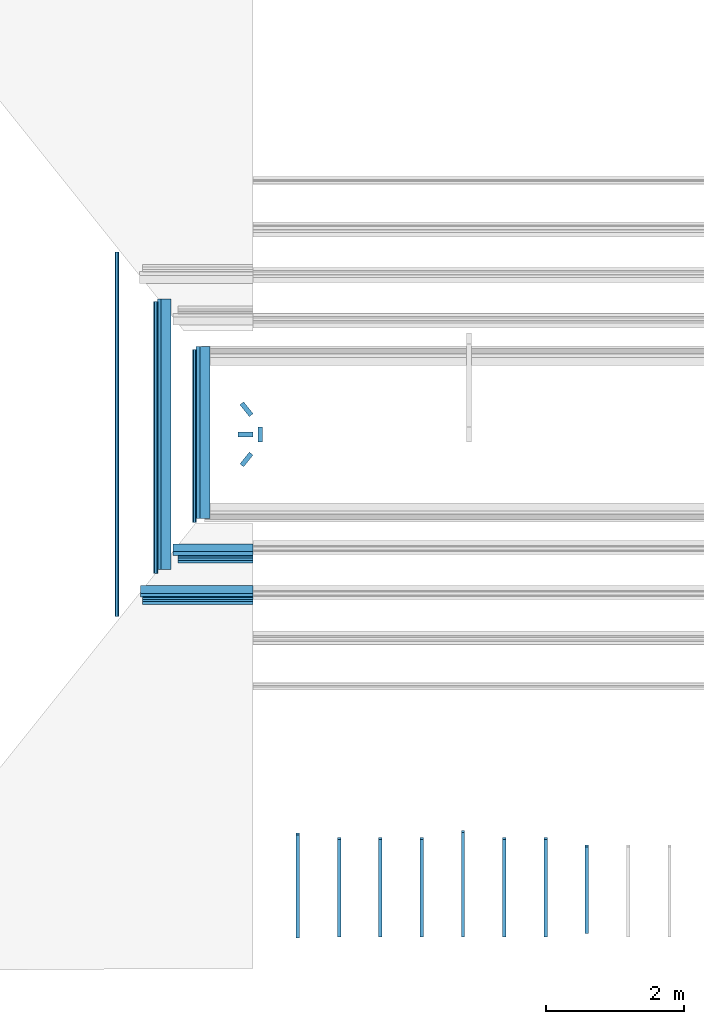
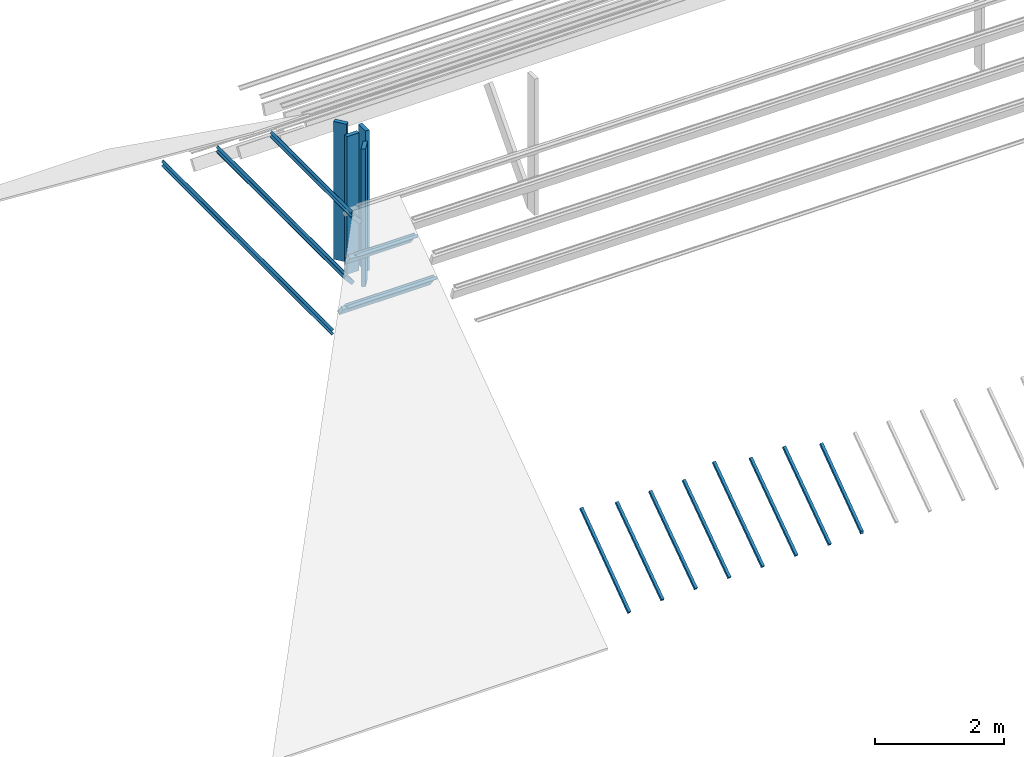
# One storey, part 1 of 6: 21 beams.
"""IFC2X3 building model written with IfcOpenShell, lengths in centimetres."""

from ifc_helpers import new_model, entity, si_unit, converted_unit, direction, frame, frame_2d, origin, place, context, subcontext, project, spatial, polyline, circle_curve, parameter, trimmed, segment, composite_curve, rectangle, outline, extrude, clip, halfspace, material, type_object, element, save


model = new_model("IFC2X3")

# Units and contexts
model_context = context("Model", 3, precision=0.001, world=frame((0.0, 0.0, 13090.0)), true_north=direction((6.123233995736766e-17, 1.0)))
body_context = subcontext(model_context, "Body", "Model", "MODEL_VIEW")
ifc_project = project(units=[si_unit("LENGTHUNIT", "METRE", prefix="CENTI"), si_unit("AREAUNIT", "SQUARE_METRE"), si_unit("VOLUMEUNIT", "CUBIC_METRE"), converted_unit("PLANEANGLEUNIT", "DEGREE", entity("IfcPlaneAngleMeasure", 0.017453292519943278), si_unit("PLANEANGLEUNIT", "RADIAN"), dimensions=[0, 0, 0, 0, 0, 0, 0])], contexts=[model_context])

# Site, building, storey
site_placement = place(None, origin())
site = spatial("IfcSite", under=ifc_project, at=site_placement, Name="Default", CompositionType="ELEMENT")
building_placement = place(site_placement, origin())
building = spatial("IfcBuilding", under=site, at=building_placement, Name="e 39 logements et 22 maisons relais", CompositionType="ELEMENT")
storey_placement = place(building_placement, frame((0.0, 0.0, 810.0)))
storey = spatial("IfcBuildingStorey", under=building, at=storey_placement, Name="R+3", CompositionType="ELEMENT", Elevation=810.0000000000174)

# Beams
ifc_material_1 = material(Name="Bois - Bois de construction de dimensions courantes")
beam_type_1 = type_object("IfcBeamType", Name="Poutre - Bois de construction de dimensions courantes:70 220", PredefinedType="BEAM")
beam_1_placement = place(storey_placement, frame((-912.5294746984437, -11.897903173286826, 193.24651256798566), z_axis=(1.0, 0.0, 0.0), x_axis=(0.0, 0.0, -1.0)))
element("IfcBeam", 1, at=beam_1_placement, inside=storey, type_object=beam_type_1, material=ifc_material_1, Name="Poutre - Bois de construction de dimensions courantes:70 220", ObjectType="Poutre - Bois de construction de dimensions courantes:70 220", context=body_context, shape_type="SweptSolid", body=[
    extrude(rectangle(XDim=7.000000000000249, YDim=21.999999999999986, at=frame_2d((5.417888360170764e-14, 5.329070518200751e-15), x_axis=(1.0, 0.0))), frame((150.63012889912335, -11.0, 0.0), z_axis=(1.0, 0.0, 0.0), x_axis=(0.0, 0.0, -1.0)), (0.0, 0.0, 1.0), 266.29065862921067),
])
beam_2_placement = place(storey_placement, frame((-1059.675926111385, 514.00766774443, -71.53413879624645), z_axis=(0.0, 0.0, 1.0), x_axis=(0.0, -1.0, 0.0)))
element("IfcBeam", 2, at=beam_2_placement, inside=storey, type_object=beam_type_1, material=ifc_material_1, Name="Poutre - Bois de construction de dimensions courantes:70 220", ObjectType="Poutre - Bois de construction de dimensions courantes:70 220", context=body_context, shape_type="SweptSolid", body=[
    extrude(rectangle(XDim=22.00000000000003, YDim=7.000000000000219, at=frame_2d((8.881784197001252e-15, -1.525446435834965e-13), x_axis=(1.0, 0.0))), frame((340.59545741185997, 7.360436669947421, -8.17459308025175), z_axis=(1.0, 0.0, 0.0), x_axis=(0.0, -0.6691306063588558, 0.7431448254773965)), (0.0, 0.0, 1.0), 393.0256257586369),
])
beam_3_placement = place(storey_placement, frame((-1003.0749704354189, 514.007667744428, -20.816305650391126), z_axis=(0.0, 0.0, 1.0), x_axis=(0.0, -1.0, 0.0)))
element("IfcBeam", 3, at=beam_3_placement, inside=storey, type_object=beam_type_1, material=ifc_material_1, Name="Poutre - Bois de construction de dimensions courantes:70 220", ObjectType="Poutre - Bois de construction de dimensions courantes:70 220", context=body_context, shape_type="SweptSolid", body=[
    extrude(rectangle(XDim=21.99999999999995, YDim=7.00000000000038, at=frame_2d((3.9968028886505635e-14, -3.597122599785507e-14), x_axis=(1.0, 0.0))), frame((409.256331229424, 7.36043666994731, -8.17459308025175), z_axis=(1.0, 0.0, 0.0), x_axis=(0.0, -0.6691306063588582, 0.7431448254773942)), (0.0, 0.0, 1.0), 250.27020166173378),
])
beam_4_placement = place(storey_placement, frame((-945.1043485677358, -22.897903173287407, 182.98590826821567), z_axis=(1.0, 0.0, 0.0), x_axis=(0.0, 0.0, -1.0)))
element("IfcBeam", 4, at=beam_4_placement, inside=storey, type_object=beam_type_1, material=ifc_material_1, Name="Poutre - Bois de construction de dimensions courantes:70 220", ObjectType="Poutre - Bois de construction de dimensions courantes:70 220", context=body_context, shape_type="SweptSolid", body=[
    extrude(rectangle(XDim=21.99999999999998, YDim=7.0000000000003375, at=frame_2d((0.0, -3.3306690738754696e-15), x_axis=(1.0, 0.0))), frame((145.34623041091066, 0.0, 11.0), z_axis=(1.0, 0.0, 0.0), x_axis=(0.0, 0.0, -1.0)), (0.0, 0.0, 1.0), 261.31395281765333),
])
beam_5_placement = place(storey_placement, frame((-939.5230028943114, -68.01831072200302, 182.98590826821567), z_axis=(1.0, 0.0, 0.0), x_axis=(0.0, 0.0, -1.0)))
element("IfcBeam", 5, at=beam_5_placement, inside=storey, type_object=beam_type_1, material=ifc_material_1, Name="Poutre - Bois de construction de dimensions courantes:70 220", ObjectType="Poutre - Bois de construction de dimensions courantes:70 220", context=body_context, shape_type="SweptSolid", body=[
    extrude(rectangle(XDim=7.0000000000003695, YDim=22.00000000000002, at=frame_2d((-8.459899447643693e-14, 6.750155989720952e-14), x_axis=(1.0, 0.0))), frame((145.34623041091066, 8.588278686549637, 6.873242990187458), z_axis=(1.0, 0.0, 0.0), x_axis=(0.0, -0.6248402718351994, 0.780752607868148)), (0.0, 0.0, 1.0), 261.31395281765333),
])
beam_6_placement = place(storey_placement, frame((-939.5230028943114, 22.222504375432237, 182.98590826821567), z_axis=(1.0, 0.0, 0.0), x_axis=(0.0, 0.0, -1.0)))
element("IfcBeam", 6, at=beam_6_placement, inside=storey, type_object=beam_type_1, material=ifc_material_1, Name="Poutre - Bois de construction de dimensions courantes:70 220", ObjectType="Poutre - Bois de construction de dimensions courantes:70 220", context=body_context, shape_type="SweptSolid", body=[
    extrude(rectangle(XDim=7.00000000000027, YDim=21.999999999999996, at=frame_2d((1.3322676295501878e-15, -1.7763568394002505e-15), x_axis=(1.0, 0.0))), frame((145.34623041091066, -8.588278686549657, 6.873242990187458), z_axis=(1.0, 0.0, 0.0), x_axis=(0.0, 0.6248402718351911, 0.7807526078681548)), (0.0, 0.0, 1.0), 261.3139528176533),
])
beam_type_2 = type_object("IfcBeamType", Name="Poutre - Bois de construction de dimensions courantes:70 200", PredefinedType="BEAM")
beam_7_placement = place(storey_placement, frame((-570.9302602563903, -256.65065085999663, -98.1609920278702), z_axis=(0.0, 0.0, 1.0), x_axis=(-1.0, 0.0, 0.0)))
element("IfcBeam", 7, at=beam_7_placement, inside=storey, type_object=beam_type_2, material=ifc_material_1, Name="Poutre - Bois de construction de dimensions courantes:70 200", ObjectType="Poutre - Bois de construction de dimensions courantes:70 200", context=body_context, shape_type="SweptSolid", body=[
    extrude(rectangle(XDim=19.999999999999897, YDim=7.000000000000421, at=frame_2d((1.5543122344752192e-15, 6.838973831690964e-14), x_axis=(0.0, 1.0))), frame((352.0992144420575, -5.807029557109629, -8.14115518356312), z_axis=(1.0, 0.0, 0.0), x_axis=(0.0, -0.8141155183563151, 0.5807029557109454)), (0.0, 0.0, 1.0), 163.37487688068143),
])
beam_8_placement = place(storey_placement, frame((-570.9302602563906, -196.3333991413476, -54.48351821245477), z_axis=(0.0, 0.0, 1.0), x_axis=(-1.0, 0.0, 0.0)))
element("IfcBeam", 8, at=beam_8_placement, inside=storey, type_object=beam_type_2, material=ifc_material_1, Name="Poutre - Bois de construction de dimensions courantes:70 200", ObjectType="Poutre - Bois de construction de dimensions courantes:70 200", context=body_context, shape_type="SweptSolid", body=[
    extrude(rectangle(XDim=19.99999999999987, YDim=7.000000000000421, at=frame_2d((-3.1308289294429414e-14, 4.3520742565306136e-14), x_axis=(0.0, 1.0))), frame((352.0992144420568, -5.807029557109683, -8.14115518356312), z_axis=(1.0, 0.0, 0.0), x_axis=(0.0, -0.8141155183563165, 0.5807029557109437)), (0.0, 0.0, 1.0), 116.39469486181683),
])
ifc_material_2 = material(Name="neuf")
beam_type_3 = type_object("IfcBeamType", Name="panne z:panne z", PredefinedType="BEAM")
beam_9_placement = place(storey_placement, frame((-570.9302602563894, -265.82708027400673, -89.14753259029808), z_axis=(0.0, 0.0, 1.0), x_axis=(-1.0, 0.0, 0.0)))
element("IfcBeam", 9, at=beam_9_placement, inside=storey, type_object=beam_type_3, material=ifc_material_2, Name="panne z:panne z", ObjectType="panne z:panne z", context=body_context, shape_type="SweptSolid", body=[
    extrude(outline(composite_curve([segment(polyline([(-4.599999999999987, -3.0), (-0.3000000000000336, -3.0)]), True, "CONTINUOUS"), segment(trimmed(circle_curve(frame_2d((-0.2999999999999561, -2.6000000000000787), x_axis=(0.0, -1.0)), 0.3999999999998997), [parameter(0.0)], [parameter(90.00000000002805)], True, "PARAMETER"), True, "CONTINUOUS"), segment(polyline([(0.10000000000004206, -2.6000000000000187), (0.09999999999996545, 2.599999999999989)]), True, "CONTINUOUS"), segment(trimmed(circle_curve(frame_2d((0.29999999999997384, 2.5999999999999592), x_axis=(-1.0, 0.0)), 0.2000000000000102), [parameter(270.00000000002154)], [parameter(0.0)], True, "PARAMETER"), False, "CONTINUOUS"), segment(polyline([(0.30000000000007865, 2.7999999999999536), (4.600000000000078, 2.7999999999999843)]), True, "CONTINUOUS"), segment(trimmed(circle_curve(frame_2d((4.599999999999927, 2.5999999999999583), x_axis=(0.0, 1.0)), 0.20000000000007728), [parameter(270.00000000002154)], [parameter(0.0)], True, "PARAMETER"), False, "CONTINUOUS"), segment(polyline([(4.800000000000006, 2.6000000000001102), (4.800000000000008, 1.0)]), True, "CONTINUOUS"), segment(polyline([(4.800000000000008, 1.0), (5.0, 1.0)]), True, "CONTINUOUS"), segment(polyline([(5.0, 1.0), (5.0, 2.60000000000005)]), True, "CONTINUOUS"), segment(trimmed(circle_curve(frame_2d((4.60000000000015, 2.600000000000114), x_axis=(1.0, 0.0)), 0.39999999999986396), [parameter(0.0)], [parameter(90.00000000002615)], True, "PARAMETER"), True, "CONTINUOUS"), segment(polyline([(4.6000000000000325, 3.0), (0.29999999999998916, 3.0)]), True, "CONTINUOUS"), segment(trimmed(circle_curve(frame_2d((0.29999999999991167, 2.600000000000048), x_axis=(0.0, 1.0)), 0.3999999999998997), [parameter(0.0)], [parameter(90.00000000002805)], True, "PARAMETER"), True, "CONTINUOUS"), segment(polyline([(-0.10000000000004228, 2.600000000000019), (-0.10000000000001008, -2.6000000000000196)]), True, "CONTINUOUS"), segment(trimmed(circle_curve(frame_2d((-0.30000000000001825, -2.59999999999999), x_axis=(1.0, 0.0)), 0.2000000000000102), [parameter(270.00000000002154)], [parameter(0.0)], True, "PARAMETER"), False, "CONTINUOUS"), segment(polyline([(-0.3000000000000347, -2.7999999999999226), (-4.6000000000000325, -2.7999999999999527)]), True, "CONTINUOUS"), segment(trimmed(circle_curve(frame_2d((-4.599999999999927, -2.599999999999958), x_axis=(0.0, -1.0)), 0.20000000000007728), [parameter(270.00000000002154)], [parameter(0.0)], True, "PARAMETER"), False, "CONTINUOUS"), segment(polyline([(-4.799999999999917, -2.6000000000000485), (-4.799999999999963, -1.0)]), True, "CONTINUOUS"), segment(polyline([(-4.799999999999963, -1.0), (-5.0, -1.0)]), True, "CONTINUOUS"), segment(polyline([(-5.0, -1.0), (-5.0, -2.6000000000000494)]), True, "CONTINUOUS"), segment(trimmed(circle_curve(frame_2d((-4.600000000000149, -2.6000000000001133), x_axis=(-1.0, 0.0)), 0.39999999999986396), [parameter(0.0)], [parameter(90.00000000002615)], True, "PARAMETER"), True, "CONTINUOUS")], self_intersect=False)), frame((352.0992144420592, -1.5385808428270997, -2.197321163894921), z_axis=(1.0, 0.0, 0.0), x_axis=(0.0, -0.8191520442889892, 0.5735764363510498)), (0.0, 0.0, 1.0), 160.38383814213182),
])
beam_10_placement = place(storey_placement, frame((-570.93026025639, -206.04707459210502, -45.85585503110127), z_axis=(0.0, 0.0, 1.0), x_axis=(-1.0, 0.0, 0.0)))
element("IfcBeam", 10, at=beam_10_placement, inside=storey, type_object=beam_type_3, material=ifc_material_2, Name="panne z:panne z", ObjectType="panne z:panne z", context=body_context, shape_type="SweptSolid", body=[
    extrude(outline(composite_curve([segment(polyline([(-4.6000000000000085, -3.0), (-0.3000000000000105, -3.0)]), True, "CONTINUOUS"), segment(trimmed(circle_curve(frame_2d((-0.2999999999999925, -2.5999999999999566), x_axis=(0.0, -1.0)), 0.399999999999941), [parameter(0.0)], [parameter(90.00000000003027)], True, "PARAMETER"), True, "CONTINUOUS"), segment(polyline([(0.1000000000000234, -2.600000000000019), (0.10000000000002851, 2.600000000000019)]), True, "CONTINUOUS"), segment(trimmed(circle_curve(frame_2d((0.2999999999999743, 2.6000000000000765), x_axis=(-1.0, 0.0)), 0.20000000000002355), [parameter(270.0000000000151)], [parameter(0.0)], True, "PARAMETER"), False, "CONTINUOUS"), segment(polyline([(0.30000000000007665, 2.799999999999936), (4.600000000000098, 2.799999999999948)]), True, "CONTINUOUS"), segment(trimmed(circle_curve(frame_2d((4.599999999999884, 2.6000000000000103), x_axis=(0.0, 1.0)), 0.2000000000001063), [parameter(270.00000000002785)], [parameter(0.0)], True, "PARAMETER"), False, "CONTINUOUS"), segment(polyline([(4.8000000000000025, 2.6000000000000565), (4.800000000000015, 1.0)]), True, "CONTINUOUS"), segment(polyline([(4.800000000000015, 1.0), (5.0, 1.0)]), True, "CONTINUOUS"), segment(polyline([(5.0, 1.0), (5.0, 2.6000000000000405)]), True, "CONTINUOUS"), segment(trimmed(circle_curve(frame_2d((4.599999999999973, 2.6000000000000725), x_axis=(1.0, 0.0)), 0.3999999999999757), [parameter(0.0)], [parameter(89.99999999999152)], True, "PARAMETER"), True, "CONTINUOUS"), segment(polyline([(4.600000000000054, 3.0), (0.30000000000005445, 3.0)]), True, "CONTINUOUS"), segment(trimmed(circle_curve(frame_2d((0.2999999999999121, 2.6000000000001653), x_axis=(0.0, 1.0)), 0.399999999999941), [parameter(0.0)], [parameter(90.00000000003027)], True, "PARAMETER"), True, "CONTINUOUS"), segment(polyline([(-0.09999999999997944, 2.600000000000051), (-0.10000000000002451, -2.5999999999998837)]), True, "CONTINUOUS"), segment(trimmed(circle_curve(frame_2d((-0.30000000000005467, -2.5999999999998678), x_axis=(1.0, 0.0)), 0.20000000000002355), [parameter(270.0000000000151)], [parameter(0.0)], True, "PARAMETER"), False, "CONTINUOUS"), segment(polyline([(-0.3000000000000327, -2.799999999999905), (-4.6000000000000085, -2.799999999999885)]), True, "CONTINUOUS"), segment(trimmed(circle_curve(frame_2d((-4.599999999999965, -2.599999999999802), x_axis=(0.0, -1.0)), 0.2000000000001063), [parameter(270.00000000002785)], [parameter(0.0)], True, "PARAMETER"), False, "CONTINUOUS"), segment(polyline([(-4.799999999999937, -2.6000000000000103), (-4.799999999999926, -1.0)]), True, "CONTINUOUS"), segment(polyline([(-4.799999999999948, -1.0), (-5.0, -1.0)]), True, "CONTINUOUS"), segment(polyline([(-5.0, -1.0), (-5.0, -2.5999999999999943)]), True, "CONTINUOUS"), segment(trimmed(circle_curve(frame_2d((-4.600000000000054, -2.599999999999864), x_axis=(-1.0, 0.0)), 0.3999999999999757), [parameter(0.0)], [parameter(89.99999999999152)], True, "PARAMETER"), True, "CONTINUOUS")], self_intersect=False)), frame((352.09921444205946, -1.5385808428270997, -2.1973211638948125), z_axis=(1.0, 0.0, 0.0), x_axis=(0.0, -0.8191520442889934, 0.5735764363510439)), (0.0, 0.0, 1.0), 109.25772047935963),
])
beam_11_placement = place(storey_placement, frame((-1133.464787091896, 514.0076677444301, -99.14060615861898), z_axis=(0.0, 0.0, 1.0), x_axis=(0.0, -1.0, 0.0)))
element("IfcBeam", 11, at=beam_11_placement, inside=storey, type_object=beam_type_3, material=ifc_material_2, Name="panne z:panne z", ObjectType="panne z:panne z", context=body_context, shape_type="SweptSolid", body=[
    extrude(outline(composite_curve([segment(trimmed(circle_curve(frame_2d((4.599999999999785, 2.600000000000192), x_axis=(1.0, 0.0)), 0.3999999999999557), [parameter(0.0)], [parameter(90.00000000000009)], True, "PARAMETER"), True, "CONTINUOUS"), segment(polyline([(4.599999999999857, 3.0), (0.2999999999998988, 3.0)]), True, "CONTINUOUS"), segment(trimmed(circle_curve(frame_2d((0.2999999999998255, 2.6000000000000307), x_axis=(0.0, 1.0)), 0.4000000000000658), [parameter(0.0)], [parameter(89.99999999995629)], True, "PARAMETER"), True, "CONTINUOUS"), segment(polyline([(-0.100000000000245, 2.6000000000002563), (-0.10000000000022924, -2.599999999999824)]), True, "CONTINUOUS"), segment(trimmed(circle_curve(frame_2d((-0.30000000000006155, -2.5999999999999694), x_axis=(1.0, 0.0)), 0.19999999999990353), [parameter(269.9999999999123)], [parameter(0.0)], True, "PARAMETER"), False, "CONTINUOUS"), segment(polyline([(-0.3000000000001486, -2.799999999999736), (-4.600000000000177, -2.799999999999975)]), True, "CONTINUOUS"), segment(trimmed(circle_curve(frame_2d((-4.600000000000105, -2.599999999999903), x_axis=(0.0, -1.0)), 0.20000000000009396), [parameter(270.0000000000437)], [parameter(0.0)], True, "PARAMETER"), False, "CONTINUOUS"), segment(polyline([(-4.8000000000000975, -2.599999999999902), (-4.800000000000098, -1.0)]), True, "CONTINUOUS"), segment(polyline([(-4.800000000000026, -1.0), (-5.0, -1.0)]), True, "CONTINUOUS"), segment(polyline([(-5.0, -1.0), (-5.0, -2.600000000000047)]), True, "CONTINUOUS"), segment(trimmed(circle_curve(frame_2d((-4.600000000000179, -2.5999999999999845), x_axis=(-1.0, 0.0)), 0.3999999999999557), [parameter(0.0)], [parameter(90.00000000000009)], True, "PARAMETER"), True, "CONTINUOUS"), segment(polyline([(-4.600000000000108, -3.0), (-0.30000000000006, -3.0)]), True, "CONTINUOUS"), segment(trimmed(circle_curve(frame_2d((-0.3000000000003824, -2.5999999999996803), x_axis=(0.0, -1.0)), 0.4000000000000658), [parameter(0.0)], [parameter(89.99999999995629)], True, "PARAMETER"), True, "CONTINUOUS"), segment(polyline([(0.09999999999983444, -2.5999999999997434), (0.09999999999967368, 2.600000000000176)]), True, "CONTINUOUS"), segment(trimmed(circle_curve(frame_2d((0.29999999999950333, 2.600000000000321), x_axis=(-1.0, 0.0)), 0.19999999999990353), [parameter(269.9999999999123)], [parameter(0.0)], True, "PARAMETER"), False, "CONTINUOUS"), segment(polyline([(0.29999999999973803, 2.8000000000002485), (4.599999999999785, 2.800000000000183)]), True, "CONTINUOUS"), segment(trimmed(circle_curve(frame_2d((4.599999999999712, 2.6000000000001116), x_axis=(0.0, 1.0)), 0.20000000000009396), [parameter(270.0000000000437)], [parameter(0.0)], True, "PARAMETER"), False, "CONTINUOUS"), segment(polyline([(4.799999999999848, 2.6000000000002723), (4.799999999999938, 1.0)]), True, "CONTINUOUS"), segment(polyline([(4.79999999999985, 1.0), (5.0, 1.0)]), True, "CONTINUOUS"), segment(polyline([(5.0, 1.0), (5.0, 2.6000000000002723)]), True, "CONTINUOUS")], self_intersect=False)), frame((272.0025593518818, 12.500988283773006, -13.883754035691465), z_axis=(1.0, 0.0, 0.0), x_axis=(0.0, 0.743144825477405, 0.6691306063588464)), (0.0, 0.0, 1.0), 529.8060231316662),
])
beam_12_placement = place(storey_placement, frame((-1076.8422677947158, 514.0076677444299, -48.22409333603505), z_axis=(0.0, 0.0, 1.0), x_axis=(0.0, -1.0, 0.0)))
element("IfcBeam", 12, at=beam_12_placement, inside=storey, type_object=beam_type_3, material=ifc_material_2, Name="panne z:panne z", ObjectType="panne z:panne z", context=body_context, shape_type="SweptSolid", body=[
    extrude(outline(composite_curve([segment(trimmed(circle_curve(frame_2d((4.600000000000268, 2.599999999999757), x_axis=(1.0, 0.0)), 0.3999999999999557), [parameter(0.0)], [parameter(90.00000000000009)], True, "PARAMETER"), True, "CONTINUOUS"), segment(polyline([(4.600000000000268, 3.0), (0.300000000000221, 3.0)]), True, "CONTINUOUS"), segment(trimmed(circle_curve(frame_2d((0.30000000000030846, 2.599999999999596), x_axis=(0.0, 1.0)), 0.4000000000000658), [parameter(0.0)], [parameter(89.99999999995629)], True, "PARAMETER"), True, "CONTINUOUS"), segment(polyline([(-0.09999999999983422, 2.5999999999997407), (-0.09999999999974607, -2.600000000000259)]), True, "CONTINUOUS"), segment(trimmed(circle_curve(frame_2d((-0.29999999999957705, -2.600000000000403), x_axis=(1.0, 0.0)), 0.19999999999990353), [parameter(269.9999999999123)], [parameter(0.0)], True, "PARAMETER"), False, "CONTINUOUS"), segment(polyline([(-0.2999999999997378, -2.800000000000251), (-4.599999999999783, -2.8000000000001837)]), True, "CONTINUOUS"), segment(trimmed(circle_curve(frame_2d((-4.599999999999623, -2.60000000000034), x_axis=(0.0, -1.0)), 0.20000000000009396), [parameter(270.0000000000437)], [parameter(0.0)], True, "PARAMETER"), False, "CONTINUOUS"), segment(polyline([(-4.799999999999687, -2.6000000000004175), (-4.799999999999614, -1.0)]), True, "CONTINUOUS"), segment(polyline([(-4.799999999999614, -1.0), (-5.0, -1.0)]), True, "CONTINUOUS"), segment(polyline([(-5.0, -1.0), (-5.0, -2.6000000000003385)]), True, "CONTINUOUS"), segment(trimmed(circle_curve(frame_2d((-4.599999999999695, -2.600000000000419), x_axis=(-1.0, 0.0)), 0.3999999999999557), [parameter(0.0)], [parameter(90.00000000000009)], True, "PARAMETER"), True, "CONTINUOUS"), segment(polyline([(-4.599999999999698, -3.0), (-0.2999999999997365, -3.0)]), True, "CONTINUOUS"), segment(trimmed(circle_curve(frame_2d((-0.2999999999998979, -2.600000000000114), x_axis=(0.0, -1.0)), 0.4000000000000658), [parameter(0.0)], [parameter(89.99999999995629)], True, "PARAMETER"), True, "CONTINUOUS"), segment(polyline([(0.100000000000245, -2.600000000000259), (0.10000000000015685, 2.599999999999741)]), True, "CONTINUOUS"), segment(trimmed(circle_curve(frame_2d((0.2999999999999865, 2.599999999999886), x_axis=(-1.0, 0.0)), 0.19999999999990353), [parameter(269.9999999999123)], [parameter(0.0)], True, "PARAMETER"), False, "CONTINUOUS"), segment(polyline([(0.3000000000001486, 2.7999999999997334), (4.600000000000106, 2.799999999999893)]), True, "CONTINUOUS"), segment(trimmed(circle_curve(frame_2d((4.600000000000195, 2.5999999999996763), x_axis=(0.0, 1.0)), 0.20000000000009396), [parameter(270.0000000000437)], [parameter(0.0)], True, "PARAMETER"), False, "CONTINUOUS"), segment(polyline([(4.800000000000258, 2.599999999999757), (4.80000000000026, 1.0)]), True, "CONTINUOUS"), segment(polyline([(4.80000000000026, 1.0), (5.0, 1.0)]), True, "CONTINUOUS"), segment(polyline([(5.0, 1.0), (5.0, 2.5999999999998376)]), True, "CONTINUOUS")], self_intersect=False)), frame((343.9183246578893, 12.500988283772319, -13.883754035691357), z_axis=(1.0, 0.0, 0.0), x_axis=(0.0, 0.743144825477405, 0.6691306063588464)), (0.0, 0.0, 1.0), 394.84326050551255),
])
beam_13_placement = place(storey_placement, frame((-1020.4688704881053, 514.0076677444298, 2.1493332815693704), z_axis=(0.0, 0.0, 1.0), x_axis=(0.0, -1.0, 0.0)))
element("IfcBeam", 13, at=beam_13_placement, inside=storey, type_object=beam_type_3, material=ifc_material_2, Name="panne z:panne z", ObjectType="panne z:panne z", context=body_context, shape_type="SweptSolid", body=[
    extrude(outline(composite_curve([segment(trimmed(circle_curve(frame_2d((4.599999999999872, 2.5999999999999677), x_axis=(1.0, 0.0)), 0.3999999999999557), [parameter(0.0)], [parameter(90.00000000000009)], True, "PARAMETER"), True, "CONTINUOUS"), segment(polyline([(4.599999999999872, 3.0), (0.29999999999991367, 3.0)]), True, "CONTINUOUS"), segment(trimmed(circle_curve(frame_2d((0.2999999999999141, 2.599999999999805), x_axis=(0.0, 1.0)), 0.4000000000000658), [parameter(0.0)], [parameter(89.99999999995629)], True, "PARAMETER"), True, "CONTINUOUS"), segment(polyline([(-0.10000000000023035, 2.5999999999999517), (-0.10000000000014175, -2.6000000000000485)]), True, "CONTINUOUS"), segment(trimmed(circle_curve(frame_2d((-0.29999999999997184, -2.6000000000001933), x_axis=(1.0, 0.0)), 0.19999999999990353), [parameter(269.9999999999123)], [parameter(0.0)], True, "PARAMETER"), False, "CONTINUOUS"), segment(polyline([(-0.30000000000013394, -2.8000000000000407), (-4.600000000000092, -2.8000000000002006)]), True, "CONTINUOUS"), segment(trimmed(circle_curve(frame_2d((-4.600000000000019, -2.6000000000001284), x_axis=(0.0, -1.0)), 0.20000000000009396), [parameter(270.0000000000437)], [parameter(0.0)], True, "PARAMETER"), False, "CONTINUOUS"), segment(polyline([(-4.8000000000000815, -2.6000000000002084), (-4.800000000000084, -1.0)]), True, "CONTINUOUS"), segment(polyline([(-4.8000000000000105, -1.0), (-5.0, -1.0)]), True, "CONTINUOUS"), segment(polyline([(-5.0, -1.0), (-5.0, -2.6000000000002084)]), True, "CONTINUOUS"), segment(trimmed(circle_curve(frame_2d((-4.60000000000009, -2.6000000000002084), x_axis=(-1.0, 0.0)), 0.3999999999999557), [parameter(0.0)], [parameter(90.00000000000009)], True, "PARAMETER"), True, "CONTINUOUS"), segment(polyline([(-4.600000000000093, -3.0), (-0.3000000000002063, -3.0)]), True, "CONTINUOUS"), segment(trimmed(circle_curve(frame_2d((-0.3000000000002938, -2.5999999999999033), x_axis=(0.0, -1.0)), 0.4000000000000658), [parameter(0.0)], [parameter(89.99999999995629)], True, "PARAMETER"), True, "CONTINUOUS"), segment(polyline([(0.09999999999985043, -2.6000000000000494), (0.09999999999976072, 2.5999999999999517)]), True, "CONTINUOUS"), segment(trimmed(circle_curve(frame_2d((0.2999999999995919, 2.6000000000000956), x_axis=(-1.0, 0.0)), 0.19999999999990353), [parameter(269.9999999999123)], [parameter(0.0)], True, "PARAMETER"), False, "CONTINUOUS"), segment(polyline([(0.299999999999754, 2.799999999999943), (4.599999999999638, 2.800000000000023)]), True, "CONTINUOUS"), segment(trimmed(circle_curve(frame_2d((4.5999999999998, 2.599999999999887), x_axis=(0.0, 1.0)), 0.20000000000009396), [parameter(270.0000000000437)], [parameter(0.0)], True, "PARAMETER"), False, "CONTINUOUS"), segment(polyline([(4.799999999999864, 2.599999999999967), (4.799999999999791, 1.0)]), True, "CONTINUOUS"), segment(polyline([(4.799999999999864, 1.0), (5.0, 1.0)]), True, "CONTINUOUS"), segment(polyline([(5.0, 1.0), (5.0, 2.599999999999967)]), True, "CONTINUOUS")], self_intersect=False)), frame((413.59370708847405, 12.500988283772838, -13.883754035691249), z_axis=(1.0, 0.0, 0.0), x_axis=(0.0, 0.743144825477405, 0.6691306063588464)), (0.0, 0.0, 1.0), 251.37372765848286),
])
beam_type_4 = type_object("IfcBeamType", Name="Poutre - Bois de construction de dimensions courantes:50 50", PredefinedType="BEAM")
beam_14_placement = place(storey_placement, frame((-437.9819705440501, -813.1449813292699, -411.45578416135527), z_axis=(0.0, -0.5868791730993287, 0.8096745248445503), x_axis=(0.0, 0.8096745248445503, 0.5868791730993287)))
element("IfcBeam", 14, at=beam_14_placement, inside=storey, type_object=beam_type_4, material=ifc_material_1, Name="Poutre - Bois de construction de dimensions courantes:50 50", ObjectType="Poutre - Bois de construction de dimensions courantes:50 50", context=body_context, shape_type="Clipping", body=[
    clip(extrude(rectangle(XDim=4.999999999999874, YDim=5.000000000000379, at=frame_2d((0.0, 7.549516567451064e-14), x_axis=(0.0, 1.0))), frame((27.118970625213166, 0.0, -71.50000000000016), z_axis=(1.0, 0.0, 0.0), x_axis=(0.0, 1.0, 0.0)), (0.0, 0.0, 1.0), 157.9471088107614), halfspace(frame((33.57845360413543, 185.06340842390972, -64.25585781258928), z_axis=(-0.8096745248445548, 0.0, 0.5868791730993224), x_axis=(0.0, -1.0, 0.0)), False)),
])
beam_15_placement = place(storey_placement, frame((-497.98197054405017, -814.0366762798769, -408.12564750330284), z_axis=(0.0, -0.5726590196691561, 0.8197936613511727), x_axis=(0.0, 0.8197936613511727, 0.5726590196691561)))
element("IfcBeam", 15, at=beam_15_placement, inside=storey, type_object=beam_type_4, material=ifc_material_1, Name="Poutre - Bois de construction de dimensions courantes:50 50", ObjectType="Poutre - Bois de construction de dimensions courantes:50 50", context=body_context, shape_type="SweptSolid", body=[
    extrude(rectangle(XDim=4.999999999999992, YDim=5.000000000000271, at=frame_2d((0.0, 5.417888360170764e-14), x_axis=(1.0, 0.0))), frame((25.636345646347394, 0.0, -71.5000000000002), z_axis=(1.0, 0.0, 0.0), x_axis=(0.0, 0.0, -1.0)), (0.0, 0.0, 1.0), 173.5084077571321),
])
beam_16_placement = place(storey_placement, frame((-557.9819705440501, -814.0366762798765, -408.12564750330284), z_axis=(0.0, -0.5726590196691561, 0.8197936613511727), x_axis=(0.0, 0.8197936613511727, 0.5726590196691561)))
element("IfcBeam", 16, at=beam_16_placement, inside=storey, type_object=beam_type_4, material=ifc_material_1, Name="Poutre - Bois de construction de dimensions courantes:50 50", ObjectType="Poutre - Bois de construction de dimensions courantes:50 50", context=body_context, shape_type="SweptSolid", body=[
    extrude(rectangle(XDim=4.999999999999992, YDim=5.000000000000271, at=frame_2d((0.0, 5.417888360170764e-14), x_axis=(1.0, 0.0))), frame((25.636345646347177, 0.0, -71.50000000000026), z_axis=(1.0, 0.0, 0.0), x_axis=(0.0, 0.0, -1.0)), (0.0, 0.0, 1.0), 173.5084077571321),
])
beam_17_placement = place(storey_placement, frame((-617.9819705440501, -814.0366762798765, -408.12564750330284), z_axis=(0.0, -0.5726590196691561, 0.8197936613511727), x_axis=(0.0, 0.8197936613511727, 0.5726590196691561)))
element("IfcBeam", 17, at=beam_17_placement, inside=storey, type_object=beam_type_4, material=ifc_material_1, Name="Poutre - Bois de construction de dimensions courantes:50 50", ObjectType="Poutre - Bois de construction de dimensions courantes:50 50", context=body_context, shape_type="SweptSolid", body=[
    extrude(rectangle(XDim=4.999999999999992, YDim=5.000000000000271, at=frame_2d((0.0, 5.417888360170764e-14), x_axis=(1.0, 0.0))), frame((25.636345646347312, 0.0, -71.5000000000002), z_axis=(1.0, 0.0, 0.0), x_axis=(0.0, 0.0, -1.0)), (0.0, 0.0, 1.0), 185.89285789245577),
])
beam_18_placement = place(storey_placement, frame((-677.9819705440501, -814.036676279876, -408.12564750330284), z_axis=(0.0, -0.5726590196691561, 0.8197936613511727), x_axis=(0.0, 0.8197936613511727, 0.5726590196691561)))
element("IfcBeam", 18, at=beam_18_placement, inside=storey, type_object=beam_type_4, material=ifc_material_1, Name="Poutre - Bois de construction de dimensions courantes:50 50", ObjectType="Poutre - Bois de construction de dimensions courantes:50 50", context=body_context, shape_type="SweptSolid", body=[
    extrude(rectangle(XDim=4.999999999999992, YDim=5.000000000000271, at=frame_2d((0.0, 5.417888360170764e-14), x_axis=(1.0, 0.0))), frame((25.636345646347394, 0.0, -71.50000000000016), z_axis=(1.0, 0.0, 0.0), x_axis=(0.0, 0.0, -1.0)), (0.0, 0.0, 1.0), 173.5084077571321),
])
beam_19_placement = place(storey_placement, frame((-737.9819705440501, -814.036676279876, -408.12564750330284), z_axis=(0.0, -0.5726590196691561, 0.8197936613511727), x_axis=(0.0, 0.8197936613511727, 0.5726590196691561)))
element("IfcBeam", 19, at=beam_19_placement, inside=storey, type_object=beam_type_4, material=ifc_material_1, Name="Poutre - Bois de construction de dimensions courantes:50 50", ObjectType="Poutre - Bois de construction de dimensions courantes:50 50", context=body_context, shape_type="SweptSolid", body=[
    extrude(rectangle(XDim=4.999999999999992, YDim=5.000000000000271, at=frame_2d((0.0, 5.417888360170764e-14), x_axis=(1.0, 0.0))), frame((25.636345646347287, 0.0, -71.50000000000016), z_axis=(1.0, 0.0, 0.0), x_axis=(0.0, 0.0, -1.0)), (0.0, 0.0, 1.0), 173.5084077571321),
])
beam_20_placement = place(storey_placement, frame((-797.9819705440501, -814.0366762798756, -408.12564750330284), z_axis=(0.0, -0.5726590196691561, 0.8197936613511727), x_axis=(0.0, 0.8197936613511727, 0.5726590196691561)))
element("IfcBeam", 20, at=beam_20_placement, inside=storey, type_object=beam_type_4, material=ifc_material_1, Name="Poutre - Bois de construction de dimensions courantes:50 50", ObjectType="Poutre - Bois de construction de dimensions courantes:50 50", context=body_context, shape_type="SweptSolid", body=[
    extrude(rectangle(XDim=4.999999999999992, YDim=5.000000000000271, at=frame_2d((0.0, 5.417888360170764e-14), x_axis=(1.0, 0.0))), frame((25.636345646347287, 0.0, -71.50000000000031), z_axis=(1.0, 0.0, 0.0), x_axis=(0.0, 0.0, -1.0)), (0.0, 0.0, 1.0), 173.5084077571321),
])
beam_21_placement = place(storey_placement, frame((-857.9819705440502, -813.9109344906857, -410.32518097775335), z_axis=(0.0, -0.5865050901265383, 0.8099455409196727), x_axis=(0.0, 0.8099455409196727, 0.5865050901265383)))
element("IfcBeam", 21, at=beam_21_placement, inside=storey, type_object=beam_type_4, material=ifc_material_1, Name="Poutre - Bois de construction de dimensions courantes:50 50", ObjectType="Poutre - Bois de construction de dimensions courantes:50 50", context=body_context, shape_type="SweptSolid", body=[
    extrude(rectangle(XDim=5.0000000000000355, YDim=5.000000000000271, at=frame_2d((2.19824158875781e-14, 5.417888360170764e-14), x_axis=(1.0, 0.0))), frame((23.51895874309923, 0.0, -71.50000000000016), z_axis=(1.0, 0.0, 0.0), x_axis=(0.0, 0.0, -1.0)), (0.0, 0.0, 1.0), 184.14828873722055),
])

save(model, "model.ifc")
